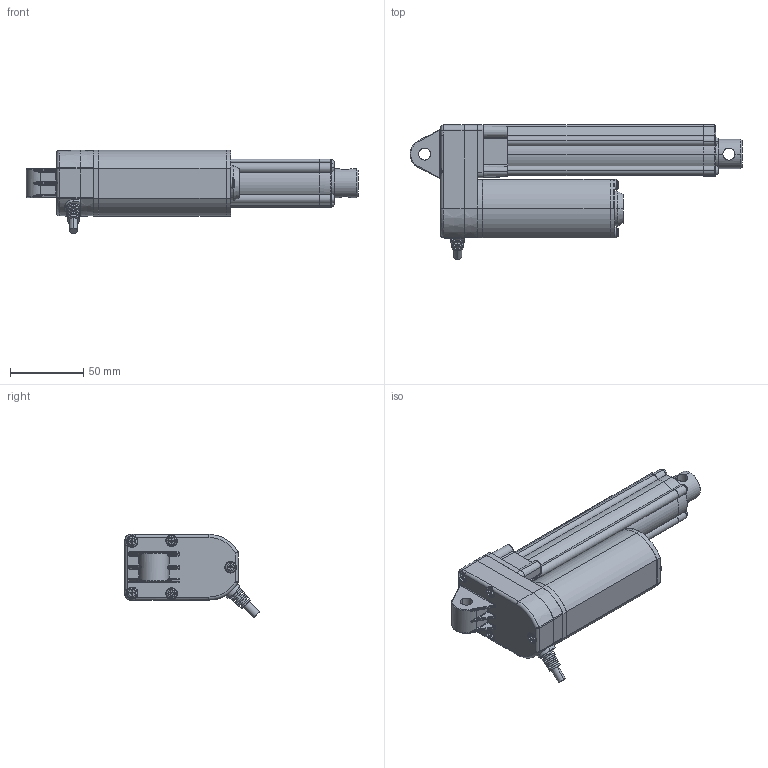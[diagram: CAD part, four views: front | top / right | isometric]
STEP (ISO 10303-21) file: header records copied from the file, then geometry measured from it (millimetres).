
FILE_DESCRIPTION(('STEP AP203'),'1');
FILE_NAME('dj809a1100208a0f011r01111111a01231025062754.stp','2023-10-25T05:27:58',('TraceParts'),('TraceParts S.A.'),'Spatial InterOp 3D',' ',' ');
FILE_SCHEMA(('CONFIG_CONTROL_DESIGN'));
Length unit declared in the file: millimetre
Products named in the file (1): 1
Bounding box: 227.11 x 92.14 x 56.99 mm (x, y, z)
Volume: 400973.2 mm3; surface area: 53786.7 mm2
Topology: 1 solids, 1 shells, 743 faces, 1942 edges, 1207 vertices
Faces by surface type: plane 297, cylinder 195, bspline 121, torus 74, cone 45, sphere 11
Entity records: 29262 total; most frequent: CARTESIAN_POINT 11986, ORIENTED_EDGE 3852, DIRECTION 3371, EDGE_CURVE 1926, AXIS2_PLACEMENT_3D 1283, VERTEX_POINT 1207, LINE 805, VECTOR 805
